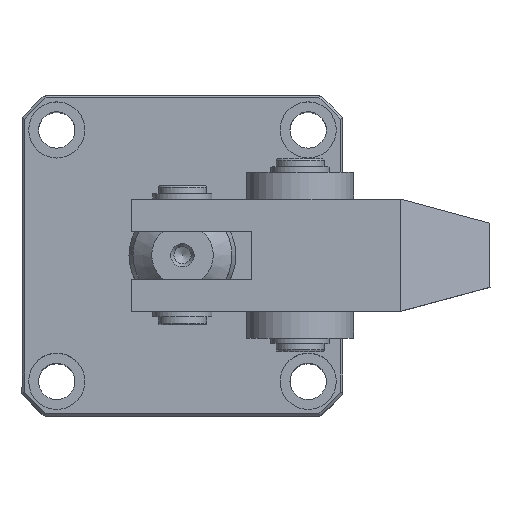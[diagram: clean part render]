
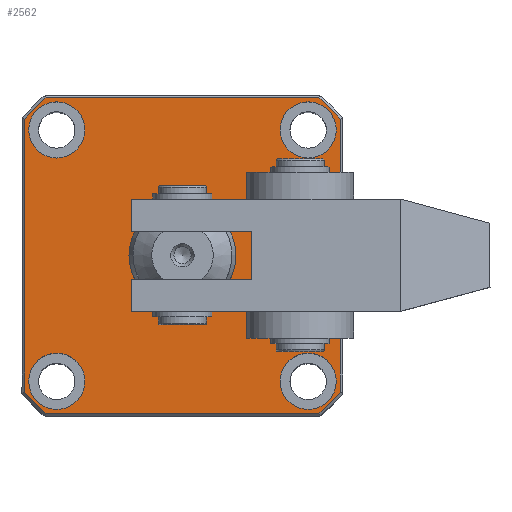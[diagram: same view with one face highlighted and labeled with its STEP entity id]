
A CAD part, top view. The second image highlights one B-rep face of the part: STEP entity #2562.
In plain terms, the highlighted planar face has unit normal (0, 0, 1).
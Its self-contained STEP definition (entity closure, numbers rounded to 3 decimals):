
#233=LINE('',#4089,#388);
#234=LINE('',#4105,#389);
#236=LINE('',#4122,#391);
#240=LINE('',#4129,#395);
#242=LINE('',#4153,#397);
#243=LINE('',#4154,#398);
#248=LINE('',#4218,#403);
#253=LINE('',#4234,#408);
#388=VECTOR('',#3273,1000.);
#389=VECTOR('',#3282,1000.);
#391=VECTOR('',#3292,1000.);
#395=VECTOR('',#3298,1000.);
#397=VECTOR('',#3322,1000.);
#398=VECTOR('',#3323,1000.);
#403=VECTOR('',#3368,1000.);
#408=VECTOR('',#3381,1000.);
#524=PLANE('',#2862);
#798=ORIENTED_EDGE('',*,*,#1315,.T.);
#799=ORIENTED_EDGE('',*,*,#1314,.F.);
#800=ORIENTED_EDGE('',*,*,#1313,.F.);
#801=ORIENTED_EDGE('',*,*,#1312,.F.);
#802=ORIENTED_EDGE('',*,*,#1311,.F.);
#803=ORIENTED_EDGE('',*,*,#1310,.T.);
#804=ORIENTED_EDGE('',*,*,#1306,.T.);
#805=ORIENTED_EDGE('',*,*,#1318,.T.);
#806=ORIENTED_EDGE('',*,*,#1304,.T.);
#807=ORIENTED_EDGE('',*,*,#1300,.T.);
#808=ORIENTED_EDGE('',*,*,#1297,.T.);
#809=ORIENTED_EDGE('',*,*,#1339,.T.);
#810=ORIENTED_EDGE('',*,*,#1345,.T.);
#811=ORIENTED_EDGE('',*,*,#1346,.T.);
#812=ORIENTED_EDGE('',*,*,#1347,.T.);
#813=ORIENTED_EDGE('',*,*,#1319,.T.);
#814=ORIENTED_EDGE('',*,*,#1295,.F.);
#1295=EDGE_CURVE('',#1597,#1581,#233,.T.);
#1297=EDGE_CURVE('',#1600,#1599,#1793,.T.);
#1300=EDGE_CURVE('',#1601,#1600,#234,.T.);
#1304=EDGE_CURVE('',#1602,#1601,#1796,.T.);
#1306=EDGE_CURVE('',#1604,#1582,#236,.T.);
#1310=EDGE_CURVE('',#1597,#1604,#240,.T.);
#1311=EDGE_CURVE('',#1606,#1606,#1797,.T.);
#1312=EDGE_CURVE('',#1607,#1607,#1798,.T.);
#1313=EDGE_CURVE('',#1608,#1608,#1799,.T.);
#1314=EDGE_CURVE('',#1609,#1609,#1800,.T.);
#1315=EDGE_CURVE('',#1610,#1610,#1801,.T.);
#1318=EDGE_CURVE('',#1582,#1602,#242,.T.);
#1319=EDGE_CURVE('',#1611,#1581,#243,.T.);
#1339=EDGE_CURVE('',#1599,#1627,#248,.T.);
#1345=EDGE_CURVE('',#1627,#1630,#1811,.T.);
#1346=EDGE_CURVE('',#1630,#1631,#253,.T.);
#1347=EDGE_CURVE('',#1631,#1611,#1812,.T.);
#1581=VERTEX_POINT('',#4047);
#1582=VERTEX_POINT('',#4049);
#1597=VERTEX_POINT('',#4088);
#1599=VERTEX_POINT('',#4096);
#1600=VERTEX_POINT('',#4098);
#1601=VERTEX_POINT('',#4106);
#1602=VERTEX_POINT('',#4116);
#1604=VERTEX_POINT('',#4123);
#1606=VERTEX_POINT('',#4132);
#1607=VERTEX_POINT('',#4135);
#1608=VERTEX_POINT('',#4138);
#1609=VERTEX_POINT('',#4141);
#1610=VERTEX_POINT('',#4144);
#1611=VERTEX_POINT('',#4150);
#1627=VERTEX_POINT('',#4217);
#1630=VERTEX_POINT('',#4233);
#1631=VERTEX_POINT('',#4235);
#1793=CIRCLE('',#2821,39.);
#1796=CIRCLE('',#2826,39.);
#1797=CIRCLE('',#2830,5.25);
#1798=CIRCLE('',#2832,5.25);
#1799=CIRCLE('',#2834,5.25);
#1800=CIRCLE('',#2836,5.25);
#1801=CIRCLE('',#2838,10.);
#1811=CIRCLE('',#2863,39.);
#1812=CIRCLE('',#2864,39.);
#2002=EDGE_LOOP('',(#798));
#2003=EDGE_LOOP('',(#799));
#2004=EDGE_LOOP('',(#800));
#2005=EDGE_LOOP('',(#801));
#2006=EDGE_LOOP('',(#802));
#2007=EDGE_LOOP('',(#803,#804,#805,#806,#807,#808,#809,#810,#811,#812,#813,
#814));
#2285=FACE_BOUND('',#2002,.T.);
#2286=FACE_BOUND('',#2003,.T.);
#2287=FACE_BOUND('',#2004,.T.);
#2288=FACE_BOUND('',#2005,.T.);
#2289=FACE_BOUND('',#2006,.T.);
#2290=FACE_BOUND('',#2007,.T.);
#2562=ADVANCED_FACE('',(#2285,#2286,#2287,#2288,#2289,#2290),#524,.T.);
#2821=AXIS2_PLACEMENT_3D('',#4097,#3276,#3277);
#2826=AXIS2_PLACEMENT_3D('',#4119,#3287,#3288);
#2830=AXIS2_PLACEMENT_3D('',#4131,#3301,#3302);
#2832=AXIS2_PLACEMENT_3D('',#4134,#3305,#3306);
#2834=AXIS2_PLACEMENT_3D('',#4137,#3309,#3310);
#2836=AXIS2_PLACEMENT_3D('',#4140,#3313,#3314);
#2838=AXIS2_PLACEMENT_3D('',#4143,#3317,#3318);
#2862=AXIS2_PLACEMENT_3D('',#4231,#3377,#3378);
#2863=AXIS2_PLACEMENT_3D('',#4232,#3379,#3380);
#2864=AXIS2_PLACEMENT_3D('',#4236,#3382,#3383);
#3273=DIRECTION('',(1.,0.,0.));
#3276=DIRECTION('',(0.,0.,1.));
#3277=DIRECTION('',(0.,-1.,0.));
#3282=DIRECTION('',(-1.,0.,0.));
#3287=DIRECTION('',(0.,0.,1.));
#3288=DIRECTION('',(0.,-1.,0.));
#3292=DIRECTION('',(1.,0.,0.));
#3298=DIRECTION('',(0.,1.,0.));
#3301=DIRECTION('',(0.,0.,1.));
#3302=DIRECTION('',(1.,0.,0.));
#3305=DIRECTION('',(0.,0.,1.));
#3306=DIRECTION('',(1.,0.,0.));
#3309=DIRECTION('',(0.,0.,1.));
#3310=DIRECTION('',(1.,0.,0.));
#3313=DIRECTION('',(0.,0.,1.));
#3314=DIRECTION('',(1.,0.,0.));
#3317=DIRECTION('',(0.,0.,-1.));
#3318=DIRECTION('',(0.,-1.,0.));
#3322=DIRECTION('',(0.,1.,0.));
#3323=DIRECTION('',(0.,1.,0.));
#3368=DIRECTION('',(0.,-1.,0.));
#3377=DIRECTION('',(0.,0.,1.));
#3378=DIRECTION('',(0.,-1.,0.));
#3379=DIRECTION('',(0.,0.,1.));
#3380=DIRECTION('',(0.,-1.,0.));
#3381=DIRECTION('',(1.,0.,0.));
#3382=DIRECTION('',(0.,0.,1.));
#3383=DIRECTION('',(0.,-1.,0.));
#4047=CARTESIAN_POINT('',(29.5,-10.5,85.));
#4049=CARTESIAN_POINT('',(29.5,10.5,85.));
#4088=CARTESIAN_POINT('',(13.,-10.5,85.));
#4089=CARTESIAN_POINT('',(14.,-10.5,85.));
#4096=CARTESIAN_POINT('',(-29.5,25.51,85.));
#4097=CARTESIAN_POINT('',(0.,0.,85.));
#4098=CARTESIAN_POINT('',(-25.51,29.5,85.));
#4105=CARTESIAN_POINT('',(0.,29.5,85.));
#4106=CARTESIAN_POINT('',(25.51,29.5,85.));
#4116=CARTESIAN_POINT('',(29.5,25.51,85.));
#4119=CARTESIAN_POINT('',(0.,0.,85.));
#4122=CARTESIAN_POINT('',(14.,10.5,85.));
#4123=CARTESIAN_POINT('',(13.,10.5,85.));
#4129=CARTESIAN_POINT('',(13.,-9.5,85.));
#4131=CARTESIAN_POINT('',(23.5,23.5,85.));
#4132=CARTESIAN_POINT('',(28.75,23.5,85.));
#4134=CARTESIAN_POINT('',(-23.5,23.5,85.));
#4135=CARTESIAN_POINT('',(-18.25,23.5,85.));
#4137=CARTESIAN_POINT('',(-23.5,-23.5,85.));
#4138=CARTESIAN_POINT('',(-18.25,-23.5,85.));
#4140=CARTESIAN_POINT('',(23.5,-23.5,85.));
#4141=CARTESIAN_POINT('',(28.75,-23.5,85.));
#4143=CARTESIAN_POINT('',(0.,0.,85.));
#4144=CARTESIAN_POINT('',(0.,-10.,85.));
#4150=CARTESIAN_POINT('',(29.5,-25.51,85.));
#4153=CARTESIAN_POINT('',(29.5,0.,85.));
#4154=CARTESIAN_POINT('',(29.5,0.,85.));
#4217=CARTESIAN_POINT('',(-29.5,-25.51,85.));
#4218=CARTESIAN_POINT('',(-29.5,0.,85.));
#4231=CARTESIAN_POINT('',(0.,0.,85.));
#4232=CARTESIAN_POINT('',(0.,0.,85.));
#4233=CARTESIAN_POINT('',(-25.51,-29.5,85.));
#4234=CARTESIAN_POINT('',(0.,-29.5,85.));
#4235=CARTESIAN_POINT('',(25.51,-29.5,85.));
#4236=CARTESIAN_POINT('',(0.,0.,85.));
